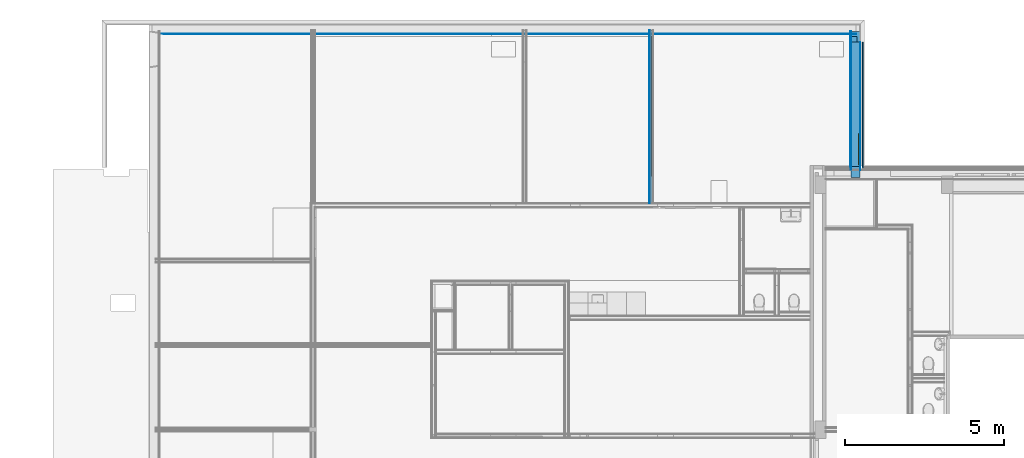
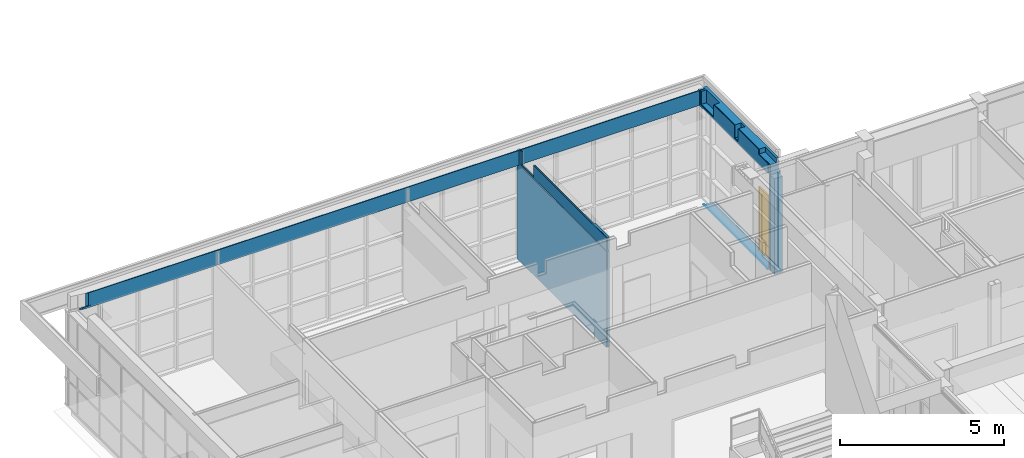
# One storey, part 52 of 109: 14 building element parts, 1 door, 2 openings, 4 elements without a shape of their own.
"""IFC2X3 building model written with IfcOpenShell, lengths in millimetres."""

from ifc_helpers import new_model, entity, si_unit, converted_unit, derived_unit, money_unit, direction, frame, origin_with_axes, place, context, subcontext, project, spatial, open_shell, faceted_brep, surface_model, material, type_object, element, fill, aggregate, save


model = new_model("IFC2X3")

# Units and contexts
model_context = context("Model", 3, precision=0.01, world=origin_with_axes(), true_north=direction((0.0, 1.0)))
body_context = subcontext(model_context, "Body", "Model", "MODEL_VIEW")
ifc_project = project(units=[si_unit("LENGTHUNIT", "METRE", prefix="MILLI"), si_unit("AREAUNIT", "SQUARE_METRE"), si_unit("VOLUMEUNIT", "CUBIC_METRE"), converted_unit("PLANEANGLEUNIT", "DEGREE", entity("IfcPlaneAngleMeasure", 0.0174532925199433), si_unit("PLANEANGLEUNIT", "RADIAN"), dimensions=[0, 0, 0, 0, 0, 0, 0]), money_unit("EUR"), converted_unit("TIMEUNIT", "Year", entity("IfcTimeMeasure", 31557600.0), si_unit("TIMEUNIT", "SECOND"), dimensions=[0, 0, 1, 0, 0, 0, 0]), si_unit("MASSUNIT", "GRAM", prefix="KILO"), si_unit("THERMODYNAMICTEMPERATUREUNIT", "DEGREE_CELSIUS"), si_unit("LUMINOUSINTENSITYUNIT", "LUMEN"), si_unit("ENERGYUNIT", "JOULE", prefix="MEGA"), derived_unit("THERMALCONDUCTANCEUNIT", [(si_unit("POWERUNIT", "WATT"), 1), (si_unit("LENGTHUNIT", "METRE"), -1), (si_unit("THERMODYNAMICTEMPERATUREUNIT", "KELVIN"), -1)]), derived_unit("SPECIFICHEATCAPACITYUNIT", [(si_unit("ENERGYUNIT", "JOULE"), 1), (si_unit("MASSUNIT", "GRAM", prefix="KILO"), -1), (si_unit("THERMODYNAMICTEMPERATUREUNIT", "KELVIN"), -1)]), derived_unit("MASSDENSITYUNIT", [(si_unit("MASSUNIT", "GRAM", prefix="KILO"), 1), (si_unit("VOLUMEUNIT", "CUBIC_METRE"), -1)])], contexts=[model_context])

# Site, building, storey
site_placement = place(None, origin_with_axes())
site = spatial("IfcSite", under=ifc_project, at=site_placement, Name="<site naam>", CompositionType="ELEMENT")
building_placement = place(site_placement, origin_with_axes())
building = spatial("IfcBuilding", under=site, at=building_placement, Name="<Naam gebouw>", CompositionType="ELEMENT")
storey_placement = place(building_placement, origin_with_axes())
storey = spatial("IfcBuildingStorey", under=building, at=storey_placement, Name="00 Begane grond", CompositionType="ELEMENT", Elevation=0.0)

# Door
door_style = type_object("IfcDoorStyle", Name="D1 27", ConstructionType="NOTDEFINED", OperationType="SINGLE_SWING_RIGHT", ParameterTakesPrecedence=False, Sizeable=False)
wall_2_placement = place(storey_placement, frame((12936.60985489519, 24225.49999927, 0.0), z_axis=(0.0, 0.0, 1.0), x_axis=(0.0, -1.0, 0.0)))
opening_2_placement = place(wall_2_placement, frame((3378.00000168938, 0.0, 10.0), z_axis=(0.0, 0.0, 1.0), x_axis=(1.0, 0.0, 0.0)))
door_placement = place(opening_2_placement, frame((-449.9999999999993, 0.0, 0.0), z_axis=(0.0, 0.0, 1.0), x_axis=(1.0, 0.0, 0.0)))
door = element("IfcDoor", 1, at=door_placement, inside=storey, type_object=door_style, Name="21_BU-D-06_305", ObjectType="DOOR", OverallHeight=2345.0, OverallWidth=990.0, context=body_context, shape_type="SurfaceModel", body=[
    faceted_brep([(0.0, 272.199999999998, 0.0), (0.0, 272.199999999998, 2300.0), (0.0, 262.1999999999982, 2300.0), (0.0, 262.1999999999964, 0.0), (-16.99999999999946, 272.199999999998, 2300.0), (-16.99999999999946, 272.199999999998, 0.0), (-16.99999999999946, 312.1999999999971, 2300.0), (-45.00000000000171, 312.1999999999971, 2300.0), (-45.00000000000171, 262.1999999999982, 2300.0), (-45.00000000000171, 262.1999999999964, 0.0), (-45.00000000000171, 312.1999999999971, 0.0), (-16.99999999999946, 312.1999999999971, 0.0)], [[[0, 1, 2, 3]], [[4, 1, 0, 5]], [[4, 6, 7, 8, 2, 1]], [[3, 2, 8, 9]], [[5, 0, 3, 9, 10, 11]], [[6, 4, 5, 11]], [[6, 11, 10, 7]], [[10, 9, 8, 7]]]),
    faceted_brep([(916.9999999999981, 272.199999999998, 2300.0), (899.9999999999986, 272.199999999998, 2300.0), (899.9999999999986, 262.1999999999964, 2300.0), (945.0000000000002, 262.1999999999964, 2300.0), (945.0000000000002, 312.1999999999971, 2300.0), (916.9999999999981, 312.1999999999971, 2300.0), (916.9999999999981, 272.1999999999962, 0.0), (899.9999999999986, 272.1999999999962, 0.0), (899.9999999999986, 262.1999999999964, 0.0), (945.0000000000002, 262.1999999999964, 0.0), (945.0000000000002, 312.1999999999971, 0.0), (916.9999999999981, 312.1999999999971, 0.0)], [[[0, 1, 2, 3, 4, 5]], [[1, 0, 6, 7]], [[1, 7, 8, 2]], [[3, 2, 8, 9]], [[4, 3, 9, 10]], [[11, 5, 4, 10]], [[0, 5, 11, 6]], [[6, 11, 10, 9, 8, 7]]]),
    faceted_brep([(-16.99999999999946, 312.1999999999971, 2317.0), (-16.99999999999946, 312.1999999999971, 2300.0), (-45.00000000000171, 312.1999999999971, 2300.0), (-45.00000000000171, 312.1999999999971, 2345.0), (945.0000000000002, 312.1999999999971, 2345.0), (945.0000000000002, 312.1999999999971, 2300.0), (916.9999999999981, 312.1999999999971, 2300.0), (916.9999999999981, 312.1999999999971, 2317.0), (-16.99999999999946, 272.199999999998, 2317.0), (-16.99999999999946, 272.199999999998, 2300.0), (0.0, 272.199999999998, 2300.0), (0.0, 262.1999999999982, 2300.0), (-45.00000000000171, 262.1999999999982, 2300.0), (-45.00000000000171, 262.1999999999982, 2345.0), (945.0000000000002, 262.1999999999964, 2345.0), (945.0000000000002, 262.1999999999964, 2300.0), (916.9999999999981, 272.199999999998, 2300.0), (899.9999999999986, 262.1999999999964, 2300.0), (899.9999999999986, 272.199999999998, 2300.0), (916.9999999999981, 272.199999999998, 2317.0)], [[[0, 1, 2, 3, 4, 5, 6, 7]], [[1, 0, 8, 9]], [[9, 10, 11, 12, 2, 1]], [[2, 12, 13, 3]], [[3, 13, 14, 4]], [[4, 14, 15, 5]], [[16, 6, 5, 15, 17, 18]], [[7, 6, 16, 19]], [[0, 7, 19, 8]], [[16, 18, 10, 9, 8, 19]], [[10, 18, 17, 11]], [[17, 15, 14, 13, 12, 11]]]),
    faceted_brep([(916.9999999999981, 312.1999999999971, 433.5), (916.9999999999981, 272.1999999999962, 433.5), (766.9999999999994, 272.1999999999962, 433.5), (766.9999999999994, 312.1999999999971, 433.5), (916.9999999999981, 312.1999999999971, 2167.0), (916.9999999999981, 272.1999999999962, 2167.0), (766.9999999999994, 272.1999999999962, 2167.0), (766.9999999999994, 312.1999999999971, 2167.0)], [[[0, 1, 2, 3]], [[4, 5, 1, 0]], [[1, 5, 6, 2]], [[3, 2, 6, 7]], [[0, 3, 7, 4]], [[7, 6, 5, 4]]]),
    faceted_brep([(-16.99999999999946, 312.1999999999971, 433.5), (-16.99999999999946, 272.199999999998, 433.5), (-16.99999999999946, 272.199999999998, 2167.0), (-16.99999999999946, 312.1999999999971, 2167.0), (132.9999999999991, 312.1999999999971, 433.5), (132.9999999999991, 272.199999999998, 433.5), (132.9999999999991, 272.199999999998, 2167.0), (132.9999999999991, 312.1999999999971, 2167.0)], [[[0, 1, 2, 3]], [[4, 5, 1, 0]], [[1, 5, 6, 2]], [[3, 2, 6, 7]], [[0, 3, 7, 4]], [[7, 6, 5, 4]]]),
    faceted_brep([(916.9999999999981, 312.1999999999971, 0.0), (916.9999999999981, 272.1999999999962, 0.0), (-16.99999999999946, 272.199999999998, 0.0), (-16.99999999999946, 312.1999999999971, 0.0), (916.9999999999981, 312.1999999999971, 433.5), (916.9999999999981, 272.1999999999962, 433.5), (766.9999999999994, 272.1999999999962, 433.5), (132.9999999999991, 272.199999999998, 433.5), (-16.99999999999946, 272.199999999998, 433.5), (-16.99999999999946, 312.1999999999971, 433.5), (132.9999999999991, 312.1999999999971, 433.5), (766.9999999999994, 312.1999999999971, 433.5)], [[[0, 1, 2, 3]], [[4, 5, 1, 0]], [[1, 5, 6, 7, 8, 2]], [[3, 2, 8, 9]], [[0, 3, 9, 10, 11, 4]], [[11, 6, 5, 4]], [[10, 7, 6, 11]], [[9, 8, 7, 10]]]),
    faceted_brep([(916.9999999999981, 312.1999999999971, 2317.0), (916.9999999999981, 272.1999999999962, 2317.0), (916.9999999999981, 272.1999999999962, 2167.0), (916.9999999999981, 312.1999999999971, 2167.0), (-16.99999999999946, 312.1999999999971, 2317.0), (-16.99999999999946, 272.199999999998, 2317.0), (-16.99999999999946, 272.199999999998, 2167.0), (132.9999999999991, 272.199999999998, 2167.0), (766.9999999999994, 272.1999999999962, 2167.0), (766.9999999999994, 312.1999999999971, 2167.0), (132.9999999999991, 312.1999999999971, 2167.0), (-16.99999999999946, 312.1999999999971, 2167.0)], [[[0, 1, 2, 3]], [[4, 5, 1, 0]], [[1, 5, 6, 7, 8, 2]], [[3, 2, 8, 9]], [[0, 3, 9, 10, 11, 4]], [[11, 6, 5, 4]], [[10, 7, 6, 11]], [[9, 8, 7, 10]]]),
    surface_model("IfcShellBasedSurfaceModel", [(766.9999999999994, 298.1999999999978, 433.5), (132.9999999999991, 298.1999999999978, 433.5), (132.9999999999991, 298.1999999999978, 2167.0), (766.9999999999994, 298.1999999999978, 2167.0)], [open_shell([[[0, 1, 2, 3]]])]),
    surface_model("IfcShellBasedSurfaceModel", [(766.9999999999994, 286.1999999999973, 433.5), (766.9999999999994, 286.1999999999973, 2167.0), (132.9999999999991, 286.1999999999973, 2167.0), (132.9999999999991, 286.1999999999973, 433.5)], [open_shell([[[0, 1, 2, 3]]])]),
])

# Wall, building element parts
wall_type_1 = type_object("IfcWallType", Name="MS-02 GF 125 ECO DGS/2.75.2.A 125", PredefinedType="NOTDEFINED")
wall_1_placement = place(storey_placement, frame((6666.666666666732, 24596.49775469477, 0.0), z_axis=(0.0, 0.0, 1.0), x_axis=(0.0, -1.0, 0.0)))
wall_1 = element("IfcWall", 2, at=wall_1_placement, inside=storey, type_object=wall_type_1, Name="22_Binnenwand_MS-02")
ifc_material_1 = material(Name="gipsplaat")
building_element_part_1_placement = place(wall_1_placement, origin_with_axes())
building_element_part_1 = element("IfcBuildingElementPart", 3, at=building_element_part_1_placement, material=ifc_material_1, Name="gipsplaat", context=body_context, shape_type="Brep", body=[
    faceted_brep([(196.4977546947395, -62.5, 4070.0), (196.4977546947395, -49.99999999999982, 4070.0), (0.0, -49.99999999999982, 4070.0), (0.0, -62.5, 4070.0), (196.4977546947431, -49.99999999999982, 3619.999999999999), (196.4977546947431, -62.49999999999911, 3619.999999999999), (996.4977546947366, -50.00000000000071, 3619.999999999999), (996.4977546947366, -49.99999999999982, 4070.0), (5446.497754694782, -50.00000000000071, 4070.0), (5446.497786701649, -50.00000000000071, 3600.0), (370.9977554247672, -49.99999999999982, 3600.0), (370.9977554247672, -49.99999999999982, 3560.0), (5446.497786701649, -50.00000000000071, 3560.0), (5446.497754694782, -50.00000000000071, 0.0), (0.0, -49.99999999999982, 0.0), (0.0, -62.5, 0.0), (5446.497754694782, -62.50000000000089, 0.0), (5446.497786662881, -62.49999999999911, 3560.0), (370.9977554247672, -62.49999999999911, 3560.0), (370.9977554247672, -62.49999999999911, 3600.0), (5446.497786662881, -62.5, 3600.0), (5446.497754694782, -62.5, 4070.0), (996.4977546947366, -62.5, 4070.0), (996.4977546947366, -62.5, 3619.999999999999)], [[[0, 1, 2, 3]], [[4, 1, 0, 5]], [[6, 7, 8, 9, 10, 11, 12, 13, 14, 2, 1, 4]], [[3, 2, 14, 15]], [[5, 0, 3, 15, 16, 17, 18, 19, 20, 21, 22, 23]], [[6, 4, 5, 23]], [[22, 7, 6, 23]], [[7, 22, 21, 8]], [[21, 20, 9, 8]], [[19, 10, 9, 20]], [[18, 11, 10, 19]], [[17, 12, 11, 18]], [[13, 12, 17, 16]], [[14, 13, 16, 15]]]),
])
ifc_material_2 = material(Name="isolatie_steenwol LSW")
building_element_part_2_placement = place(wall_1_placement, origin_with_axes())
building_element_part_2 = element("IfcBuildingElementPart", 4, at=building_element_part_2_placement, material=ifc_material_2, Name="isolatie_steenwol LSW", context=body_context, shape_type="Brep", body=[
    faceted_brep([(196.4977546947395, -37.49999999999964, 4070.0), (196.4977546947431, 37.50000000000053, 4070.0), (0.0, 37.50000000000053, 4070.0), (0.0, -37.49999999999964, 4070.0), (196.4977546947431, -37.49999999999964, 3619.999999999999), (196.4977546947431, -8.24203807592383, 3619.999999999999), (196.4977546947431, -8.24203807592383, 3540.0), (196.4977546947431, 37.50000000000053, 3540.0), (4596.497754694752, 37.49999999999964, 3540.0), (4596.497754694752, 37.49999999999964, 3560.0), (5446.497786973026, 37.49999999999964, 3560.0), (5446.497754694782, 37.49999999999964, 0.0), (0.0, 37.49999999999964, 0.0), (0.0, -37.49999999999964, 0.0), (5446.497754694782, -37.50000000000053, 0.0), (5446.497786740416, -37.50000000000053, 3560.0), (370.9977554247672, -37.49999999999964, 3560.0), (370.9977554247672, -37.49999999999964, 3600.0), (5446.497786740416, -37.5000000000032, 3600.0), (5446.497754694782, -37.50000000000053, 4070.0), (996.4977546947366, -37.49999999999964, 4070.0), (996.4977546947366, -37.49999999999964, 3619.999999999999), (996.4977546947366, -8.24203807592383, 3619.999999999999), (996.4977546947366, -8.24203807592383, 4070.0), (4596.497754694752, -8.242038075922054, 4070.0), (4596.497754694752, -8.242038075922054, 3600.0), (370.9977554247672, -8.24203807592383, 3600.0), (370.9977554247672, -8.24203807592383, 3560.0), (4596.497754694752, -8.242038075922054, 3560.0), (4596.497754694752, -8.242038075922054, 3540.0), (4596.497754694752, 37.49999999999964, 3600.0), (5446.497786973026, 37.49999999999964, 3600.0), (5446.497754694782, 37.49999999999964, 4070.0), (4596.497754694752, 37.49999999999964, 4070.0)], [[[0, 1, 2, 3]], [[1, 0, 4, 5, 6, 7]], [[8, 9, 10, 11, 12, 2, 1, 7]], [[3, 2, 12, 13]], [[4, 0, 3, 13, 14, 15, 16, 17, 18, 19, 20, 21]], [[22, 5, 4, 21]], [[22, 23, 24, 25, 26, 27, 28, 29, 6, 5]], [[8, 7, 6, 29]], [[28, 9, 8, 29]], [[28, 27, 16, 15, 10, 9]], [[11, 10, 15, 14]], [[12, 11, 14, 13]], [[27, 26, 17, 16]], [[25, 30, 31, 18, 17, 26]], [[19, 18, 31, 32]], [[23, 20, 19, 32, 33, 24]], [[20, 23, 22, 21]], [[24, 33, 30, 25]], [[30, 33, 32, 31]]]),
])
aggregate(wall_1, [building_element_part_1, building_element_part_2])

# Wall, openings
wall_type_2 = type_object("IfcWallType", Name="HSB_285 gevelbeplating 420", PredefinedType="NOTDEFINED")
wall_2 = element("IfcWall", 5, at=wall_2_placement, inside=storey, type_object=wall_type_2, Name="21_Binnenwand_HSB_285")
opening_1_placement = place(wall_2_placement, frame((1871.750000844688, 0.0, 10.03197149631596), z_axis=(0.0, 0.0, 1.0), x_axis=(1.0, 0.0, 0.0)))
element("IfcOpeningElement", 6, at=opening_1_placement, cuts=wall_2, Name="21__305", context=body_context, shape_type="Brep", body=[
    faceted_brep([(-2285.75000084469, 376.5000000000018, 0.0), (-2285.75000084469, 376.5000000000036, 3536.943489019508), (-2285.75000084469, 421.0000000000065, 3536.943489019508), (-2285.75000084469, 421.0000000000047, 0.0), (-2285.75000084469, -0.9999999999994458, 0.0), (-2285.75000084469, -0.9999999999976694, 3536.943489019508), (2056.250000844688, 376.4999999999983, 3536.943489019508), (2056.250000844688, 421.0000000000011, 3536.943489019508), (2056.250000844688, 421.0000000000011, 0.0), (2056.250000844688, 376.4999999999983, 0.0), (2056.250000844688, -1.000000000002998, 0.0), (2056.250000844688, -1.000000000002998, 3536.943489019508)], [[[0, 1, 2, 3]], [[1, 0, 4, 5]], [[1, 6, 7, 2]], [[7, 8, 3, 2]], [[9, 0, 3, 8]], [[0, 9, 10, 4]], [[5, 4, 10, 11]], [[6, 1, 5, 11]], [[6, 9, 8, 7]], [[9, 6, 11, 10]]]),
])
opening_2 = element("IfcOpeningElement", 7, at=opening_2_placement, cuts=wall_2, Name="21_BU-D-06_305", context=body_context, shape_type="Brep", body=[
    faceted_brep([(-495.000000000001, 312.1999999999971, 0.0), (-495.000000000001, 312.1999999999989, 2345.0), (-495.000000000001, 421.0000000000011, 2345.0), (-495.000000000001, 420.9999999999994, 0.0), (-495.000000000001, -1.000000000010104, 0.0), (-495.000000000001, -1.000000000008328, 2345.0), (495.000000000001, 312.1999999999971, 2345.0), (495.000000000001, 420.9999999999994, 2345.0), (495.000000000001, 420.9999999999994, 0.0), (495.000000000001, 312.1999999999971, 0.0), (495.000000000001, -1.000000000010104, 0.0), (495.000000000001, -1.000000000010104, 2345.0)], [[[0, 1, 2, 3]], [[1, 0, 4, 5]], [[1, 6, 7, 2]], [[7, 8, 3, 2]], [[9, 0, 3, 8]], [[0, 9, 10, 4]], [[5, 4, 10, 11]], [[6, 1, 5, 11]], [[6, 9, 8, 7]], [[9, 6, 11, 10]]]),
])

fill(opening_2, door)

# Building element part
ifc_material_3 = material(Name="metaal - Aluminium gevelplaat")
building_element_part_3_placement = place(wall_2_placement, origin_with_axes())
building_element_part_3 = element("IfcBuildingElementPart", 8, at=building_element_part_3_placement, material=ifc_material_3, Name="metaal - Aluminium gevelplaat", context=body_context, shape_type="Brep", body=[
    faceted_brep([(3967.499999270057, 419.9999999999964, 3546.975460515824), (0.0, 419.9999999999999, 3546.975460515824), (0.0, 380.0000000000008, 3546.975460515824), (3967.499999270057, 379.9999999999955, 3546.975460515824), (3967.499999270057, 419.9999999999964, 0.0), (0.0, 419.9999999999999, 0.0), (0.0, 380.0000000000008, 0.0), (3967.499999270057, 379.9999999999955, 0.0)], [[[0, 1, 2, 3]], [[4, 5, 1, 0]], [[2, 1, 5, 6]], [[3, 2, 6, 7]], [[3, 7, 4, 0]], [[7, 6, 5, 4]]]),
])

ifc_material_4 = material(Name="folie_dampopen")
building_element_part_4_placement = place(wall_2_placement, origin_with_axes())
building_element_part_4 = element("IfcBuildingElementPart", 9, at=building_element_part_4_placement, material=ifc_material_4, Name="folie_dampopen", context=body_context, shape_type="Brep", body=[
    faceted_brep([(4029.999999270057, 317.9999999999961, 3546.975460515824), (0.0, 317.9999999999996, 3546.975460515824), (0.0, 317.5000000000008, 3546.975460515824), (4029.999999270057, 317.4999999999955, 3546.975460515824), (4029.999999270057, 317.9999999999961, 0.0), (0.0, 317.9999999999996, 0.0), (0.0, 317.5000000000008, 0.0), (4029.999999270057, 317.4999999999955, 0.0)], [[[0, 1, 2, 3]], [[4, 5, 1, 0]], [[2, 1, 5, 6]], [[3, 2, 6, 7]], [[3, 7, 4, 0]], [[7, 6, 5, 4]]]),
])

ifc_material_5 = material(Name="isolatie_houtvezel")
building_element_part_5_placement = place(wall_2_placement, origin_with_axes())
building_element_part_5 = element("IfcBuildingElementPart", 10, at=building_element_part_5_placement, material=ifc_material_5, Name="isolatie_houtvezel", context=body_context, shape_type="Brep", body=[
    faceted_brep([(0.0, 119.9122932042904, 2.999999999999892), (0.0, 28.00000000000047, 2.999999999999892), (0.0, 28.00000000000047, 3546.975460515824), (0.0, 313.0000000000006, 3546.975460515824), (0.0, 313.0000000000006, 0.0), (0.0, 119.9122932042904, 0.0), (3964.919184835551, 119.9122932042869, 2.999999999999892), (3964.919184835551, 27.99999999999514, 2.999999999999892), (3964.919184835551, 27.99999999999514, 0.0), (4272.430466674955, 27.99999999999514, 0.0), (4272.430466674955, 27.99999999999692, 3546.975460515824), (4272.430466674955, 312.999999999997, 3546.975460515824), (4272.430466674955, 312.9999999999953, 0.0), (3964.919184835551, 119.9122932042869, 0.0)], [[[0, 1, 2, 3, 4, 5]], [[1, 0, 6, 7]], [[7, 8, 9, 10, 2, 1]], [[2, 10, 11, 3]], [[3, 11, 12, 4]], [[13, 5, 4, 12, 9, 8]], [[0, 5, 13, 6]], [[13, 8, 7, 6]], [[11, 10, 9, 12]]]),
])

ifc_material_6 = material(Name="folie_dampdicht")
building_element_part_6_placement = place(wall_2_placement, origin_with_axes())
building_element_part_6 = element("IfcBuildingElementPart", 11, at=building_element_part_6_placement, material=ifc_material_6, Name="folie_dampdicht", context=body_context, shape_type="Brep", body=[
    faceted_brep([(3964.919184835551, 27.99999999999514, 0.0), (3964.919184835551, 27.99999999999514, 2.999999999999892), (0.0, 28.00000000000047, 3.000000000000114), (0.0, 28.00000000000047, 3546.975460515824), (4029.999999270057, 27.99999999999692, 3546.975460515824), (4029.999999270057, 27.99999999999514, 0.0), (3964.919184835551, 27.49999999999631, 0.0), (3964.919184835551, 27.49999999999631, 2.999999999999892), (0.0, 27.49999999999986, 2.999999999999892), (0.0, 27.49999999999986, 3546.975460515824), (4029.999999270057, 27.49999999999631, 3546.975460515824), (4029.999999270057, 27.49999999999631, 0.0)], [[[0, 1, 2, 3, 4, 5]], [[1, 0, 6, 7]], [[8, 2, 1, 7]], [[2, 8, 9, 3]], [[10, 4, 3, 9]], [[4, 10, 11, 5]], [[6, 0, 5, 11]], [[7, 6, 11, 10, 9, 8]]]),
])

building_element_part_7_placement = place(wall_2_placement, origin_with_axes())
building_element_part_7 = element("IfcBuildingElementPart", 12, at=building_element_part_7_placement, material=ifc_material_1, Name="gipsplaat", context=body_context, shape_type="Brep", body=[
    faceted_brep([(3927.499999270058, 12.49999999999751, 3.000000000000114), (0.0, 12.49999999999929, 3.000000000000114), (0.0, 12.50000000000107, 3546.975460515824), (3927.499999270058, 12.49999999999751, 3546.975460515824), (0.0, 0.0, 2.999999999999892), (3927.499999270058, 0.0, 2.999999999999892), (0.0, 0.0, 3546.975460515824), (3927.499999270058, 0.0, 3546.975460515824)], [[[0, 1, 2, 3]], [[4, 1, 0, 5]], [[1, 4, 6, 2]], [[7, 3, 2, 6]], [[5, 0, 3, 7]], [[4, 5, 7, 6]]]),
])

ifc_material_7 = material(Name="brandwerende_bekleding")
building_element_part_8_placement = place(wall_2_placement, origin_with_axes())
building_element_part_8 = element("IfcBuildingElementPart", 13, at=building_element_part_8_placement, material=ifc_material_7, Name="brandwerende_bekleding", context=body_context, shape_type="Brep", body=[
    faceted_brep([(4034.499999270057, 317.4999999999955, 3546.975460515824), (0.0, 317.5000000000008, 3546.975460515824), (0.0, 313.0000000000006, 3546.975460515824), (4034.499999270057, 312.999999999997, 3546.975460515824), (4034.499999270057, 317.4999999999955, 0.0), (0.0, 317.5000000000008, 0.0), (0.0, 313.0000000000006, 0.0), (4034.499999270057, 312.9999999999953, 0.0)], [[[0, 1, 2, 3]], [[4, 5, 1, 0]], [[2, 1, 5, 6]], [[3, 2, 6, 7]], [[3, 7, 4, 0]], [[7, 6, 5, 4]]]),
])

ifc_material_8 = material(Name="hout_OSB")
building_element_part_9_placement = place(wall_2_placement, origin_with_axes())
building_element_part_9 = element("IfcBuildingElementPart", 14, at=building_element_part_9_placement, material=ifc_material_8, Name="hout_OSB", context=body_context, shape_type="Brep", body=[
    faceted_brep([(3927.499999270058, 27.49999999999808, 3.000000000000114), (0.0, 27.49999999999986, 3.000000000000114), (0.0, 27.49999999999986, 3546.975460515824), (3927.499999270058, 27.49999999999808, 3546.975460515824), (0.0, 12.49999999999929, 2.999999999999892), (3927.499999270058, 12.49999999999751, 2.999999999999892), (0.0, 12.50000000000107, 3546.975460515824), (3927.499999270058, 12.49999999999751, 3546.975460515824)], [[[0, 1, 2, 3]], [[4, 1, 0, 5]], [[1, 4, 6, 2]], [[7, 3, 2, 6]], [[5, 0, 3, 7]], [[4, 5, 7, 6]]]),
])

aggregate(wall_2, [building_element_part_3, building_element_part_4, building_element_part_5, building_element_part_6, building_element_part_7, building_element_part_8, building_element_part_9])

# Wall, building element part
wall_type_3 = type_object("IfcWallType", Name="HSB_285 zonder gevelbeplating 313", PredefinedType="NOTDEFINED")
wall_3_placement = place(storey_placement, frame((-9087.46338968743, 24780.50024437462, 3546.974528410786), z_axis=(0.0, 0.0, 1.0), x_axis=(1.0, 0.0, 0.0)))
wall_3 = element("IfcWall", 15, at=wall_3_placement, inside=storey, type_object=wall_type_3, Name="21_Binnenwand_HSB_285")
building_element_part_10_placement = place(wall_3_placement, origin_with_axes())
building_element_part_10 = element("IfcBuildingElementPart", 16, at=building_element_part_10_placement, material=ifc_material_1, Name="gipsplaat", context=body_context, shape_type="Brep", body=[
    faceted_brep([(572.2618256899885, -300.0000000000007, 553.0254229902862), (652.2618256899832, -312.5, 553.0254229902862), (22214.96341382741, -312.5000000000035, 553.0254229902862), (22214.96341382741, -300.0000000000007, 553.0254229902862), (652.26182569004, -312.5, 73.02547158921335), (572.2618256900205, -299.9999999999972, 73.02547158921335), (448.1864542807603, -312.4999999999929, 73.02547158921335), (448.1864542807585, -312.5, 0.0), (22214.96341382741, -312.5000000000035, 0.0), (22214.96341382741, -300.0000000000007, 0.0), (368.1864542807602, -300.0000000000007, 0.0), (368.186454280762, -299.9999999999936, 73.02547158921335)], [[[0, 1, 2, 3]], [[4, 1, 0, 5]], [[4, 6, 7, 8, 2, 1]], [[3, 2, 8, 9]], [[5, 0, 3, 9, 10, 11]], [[6, 4, 5, 11]], [[6, 11, 10, 7]], [[7, 10, 9, 8]]]),
])

# Wall, building element parts
wall_4_placement = place(storey_placement, frame((13250.47641525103, 24568.50000000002, 3546.975460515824), z_axis=(0.0, 0.0, 1.0), x_axis=(0.0, -1.0, 0.0)))
wall_4 = element("IfcWall", 17, at=wall_4_placement, inside=storey, type_object=wall_type_3, Name="21_Binnenwand_HSB_285")
building_element_part_11_placement = place(wall_4_placement, origin_with_axes())
building_element_part_11 = element("IfcBuildingElementPart", 18, at=building_element_part_11_placement, material=ifc_material_5, Name="isolatie_houtvezel", context=body_context, shape_type="Brep", body=[
    faceted_brep([(968.4999999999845, -100.4764002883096, 552.0244506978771), (968.4999999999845, -285.0000000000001, 552.0244506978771), (2218.499999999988, -285.0000000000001, 552.0244506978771), (2218.499999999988, -75.47641525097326, 552.0244506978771), (2448.499999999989, -75.47641525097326, 552.0244506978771), (2448.499999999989, -285.0000000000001, 552.0244506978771), (3698.500000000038, -285.0000000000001, 552.0244506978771), (3698.500000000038, -75.47641525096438, 552.0244506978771), (4366.750000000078, -75.47641525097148, 552.0244506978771), (4366.750000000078, 0.0, 552.0244506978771), (0.0, 0.0, 552.0244506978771), (0.0, -285.0000000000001, 552.0244506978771), (168.499999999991, -285.0000000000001, 552.0244506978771), (168.4999999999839, -100.4764002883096, 552.0244506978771), (968.4999999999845, -100.4764002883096, 73.0245394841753), (968.4999999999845, -285.0000000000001, 73.0245394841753), (168.4999999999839, -284.9999999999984, 73.0245394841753), (0.0, -285.0000000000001, 0.0), (4366.750000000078, -285.0000000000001, 0.0), (4366.750000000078, -285.0000000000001, 373.0245394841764), (3698.500000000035, -285.0000000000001, 373.0245394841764), (2448.499999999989, -285.0000000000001, 73.02453948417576), (2218.499999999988, -285.0000000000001, 73.02453948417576), (2218.499999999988, -75.47641525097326, 73.02453948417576), (2448.499999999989, -75.47641525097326, 73.02453948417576), (3698.500000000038, -75.47641525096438, 373.0245394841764), (4366.750000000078, -75.47641525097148, 373.0245394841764), (4366.750000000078, 0.0, 0.0), (0.0, 0.0, 0.0), (168.4999999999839, -100.4764002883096, 73.0245394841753)], [[[0, 1, 2, 3, 4, 5, 6, 7, 8, 9, 10, 11, 12, 13]], [[1, 0, 14, 15]], [[16, 12, 11, 17, 18, 19, 20, 6, 5, 21, 22, 2, 1, 15]], [[3, 2, 22, 23]], [[4, 3, 23, 24]], [[5, 4, 24, 21]], [[7, 6, 20, 25]], [[8, 7, 25, 26]], [[26, 19, 18, 27, 9, 8]], [[10, 9, 27, 28]], [[17, 11, 10, 28]], [[13, 12, 16, 29]], [[0, 13, 29, 14]], [[16, 15, 14, 29]], [[28, 27, 18, 17]], [[19, 26, 25, 20]], [[22, 21, 24, 23]]]),
])
building_element_part_12_placement = place(wall_4_placement, origin_with_axes())
building_element_part_12 = element("IfcBuildingElementPart", 19, at=building_element_part_12_placement, material=ifc_material_8, Name="hout_OSB", context=body_context, shape_type="Brep", body=[
    faceted_brep([(168.499999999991, -300.0000000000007, 552.0244506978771), (168.499999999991, -285.0000000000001, 552.0244506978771), (0.0, -285.0000000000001, 552.0244506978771), (0.0, -300.0000000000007, 552.0244506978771), (168.4999999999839, -284.9999999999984, 73.0245394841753), (168.4999999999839, -299.9999999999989, 73.0245394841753), (968.4999999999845, -285.0000000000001, 73.0245394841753), (968.4999999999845, -285.0000000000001, 552.0244506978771), (2218.499999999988, -285.0000000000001, 552.0244506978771), (2218.499999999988, -285.0000000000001, 73.02453948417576), (2448.499999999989, -285.0000000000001, 73.02453948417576), (2448.499999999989, -285.0000000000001, 552.0244506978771), (3698.500000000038, -285.0000000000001, 552.0244506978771), (3698.500000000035, -285.0000000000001, 373.0245394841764), (4270.500000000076, -285.0000000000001, 373.0245394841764), (4270.500000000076, -285.0000000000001, 0.0), (0.0, -285.0000000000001, 0.0), (0.0, -300.0000000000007, 0.0), (4270.500000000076, -300.0000000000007, 0.0), (4270.500000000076, -300.0000000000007, 373.0245394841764), (3698.500000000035, -300.0000000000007, 373.0245394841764), (3698.500000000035, -300.0000000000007, 552.0244506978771), (2448.499999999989, -300.0000000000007, 552.0244506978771), (2448.499999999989, -300.0000000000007, 73.02453948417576), (2218.499999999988, -300.0000000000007, 73.02453948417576), (2218.499999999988, -300.0000000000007, 552.0244506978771), (968.4999999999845, -300.0000000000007, 552.0244506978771), (968.4999999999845, -300.0000000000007, 73.0245394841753)], [[[0, 1, 2, 3]], [[4, 1, 0, 5]], [[6, 7, 8, 9, 10, 11, 12, 13, 14, 15, 16, 2, 1, 4]], [[17, 3, 2, 16]], [[5, 0, 3, 17, 18, 19, 20, 21, 22, 23, 24, 25, 26, 27]], [[6, 4, 5, 27]], [[26, 7, 6, 27]], [[7, 26, 25, 8]], [[9, 8, 25, 24]], [[10, 9, 24, 23]], [[22, 11, 10, 23]], [[11, 22, 21, 12]], [[13, 12, 21, 20]], [[14, 13, 20, 19]], [[14, 19, 18, 15]], [[15, 18, 17, 16]]]),
])
building_element_part_13_placement = place(wall_4_placement, origin_with_axes())
building_element_part_13 = element("IfcBuildingElementPart", 20, at=building_element_part_13_placement, material=ifc_material_1, Name="gipsplaat", context=body_context, shape_type="Brep", body=[
    faceted_brep([(168.499999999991, -312.5, 552.0244506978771), (168.499999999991, -300.0000000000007, 552.0244506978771), (0.0, -300.0000000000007, 552.0244506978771), (0.0, -312.5, 552.0244506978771), (168.4999999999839, -299.9999999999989, 73.0245394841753), (168.4999999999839, -312.4999999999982, 73.0245394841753), (968.4999999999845, -300.0000000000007, 73.0245394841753), (968.4999999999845, -300.0000000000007, 552.0244506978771), (2218.499999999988, -300.0000000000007, 552.0244506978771), (2218.499999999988, -300.0000000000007, 73.02453948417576), (2448.499999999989, -300.0000000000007, 73.02453948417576), (2448.499999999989, -300.0000000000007, 552.0244506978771), (3698.500000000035, -300.0000000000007, 552.0244506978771), (3698.500000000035, -300.0000000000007, 373.0245394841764), (4270.500000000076, -300.0000000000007, 373.0245394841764), (4270.500000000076, -300.0000000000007, 0.0), (0.0, -300.0000000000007, 0.0), (0.0, -312.5, 0.0), (4270.500000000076, -312.5, 0.0), (4270.500000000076, -312.5, 373.0245394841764), (3698.500000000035, -312.5, 373.0245394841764), (3698.500000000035, -312.5, 552.0244506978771), (2448.499999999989, -312.5, 552.0244506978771), (2448.499999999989, -312.5, 73.02453948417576), (2218.499999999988, -312.5, 73.02453948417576), (2218.499999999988, -312.5, 552.0244506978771), (968.4999999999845, -312.5, 552.0244506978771), (968.4999999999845, -312.5, 73.0245394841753)], [[[0, 1, 2, 3]], [[4, 1, 0, 5]], [[6, 7, 8, 9, 10, 11, 12, 13, 14, 15, 16, 2, 1, 4]], [[17, 3, 2, 16]], [[5, 0, 3, 17, 18, 19, 20, 21, 22, 23, 24, 25, 26, 27]], [[6, 4, 5, 27]], [[26, 7, 6, 27]], [[7, 26, 25, 8]], [[9, 8, 25, 24]], [[10, 9, 24, 23]], [[22, 11, 10, 23]], [[11, 22, 21, 12]], [[13, 12, 21, 20]], [[14, 13, 20, 19]], [[14, 19, 18, 15]], [[15, 18, 17, 16]]]),
])
aggregate(wall_4, [building_element_part_11, building_element_part_12, building_element_part_13])

# Building element part
building_element_part_14_placement = place(wall_3_placement, origin_with_axes())
building_element_part_14 = element("IfcBuildingElementPart", 21, at=building_element_part_14_placement, material=ifc_material_8, Name="hout_OSB", context=body_context, shape_type="Brep", body=[
    faceted_brep([(476.2618256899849, -285.0000000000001, 553.0254229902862), (572.2618256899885, -300.0000000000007, 553.0254229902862), (22214.96341382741, -300.0000000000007, 553.0254229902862), (22214.96341382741, -285.0000000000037, 553.0254229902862), (572.2618256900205, -299.9999999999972, 73.02547158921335), (476.2618256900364, -285.0000000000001, 73.02547158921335), (368.186454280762, -299.9999999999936, 73.02547158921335), (368.1864542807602, -300.0000000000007, 0.0), (22214.96341382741, -300.0000000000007, 0.0), (22214.96341382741, -285.0000000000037, 0.0), (272.1864542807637, -285.0000000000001, 0.0), (272.1864542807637, -284.9999999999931, 73.02547158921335)], [[[0, 1, 2, 3]], [[4, 1, 0, 5]], [[4, 6, 7, 8, 2, 1]], [[3, 2, 8, 9]], [[5, 0, 3, 9, 10, 11]], [[6, 4, 5, 11]], [[6, 11, 10, 7]], [[7, 10, 9, 8]]]),
])

aggregate(wall_3, [building_element_part_10, building_element_part_14])

save(model, "model.ifc")
